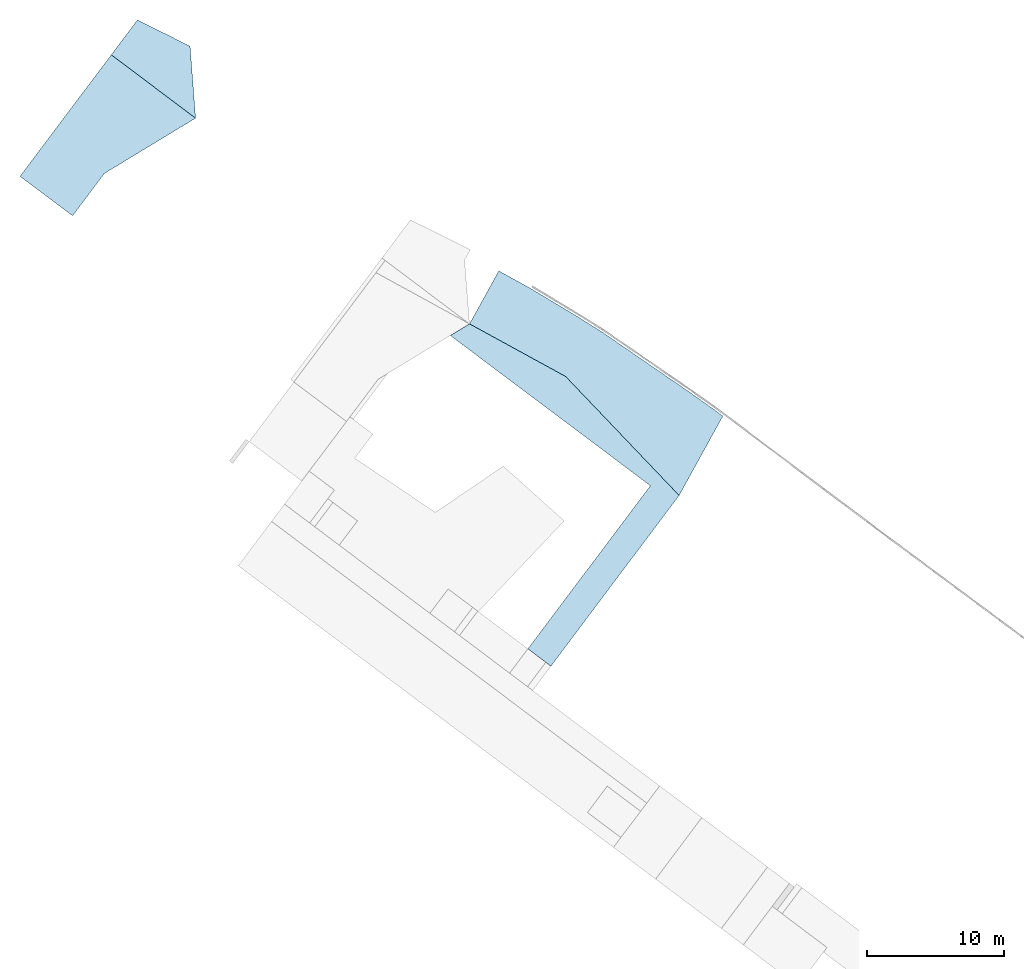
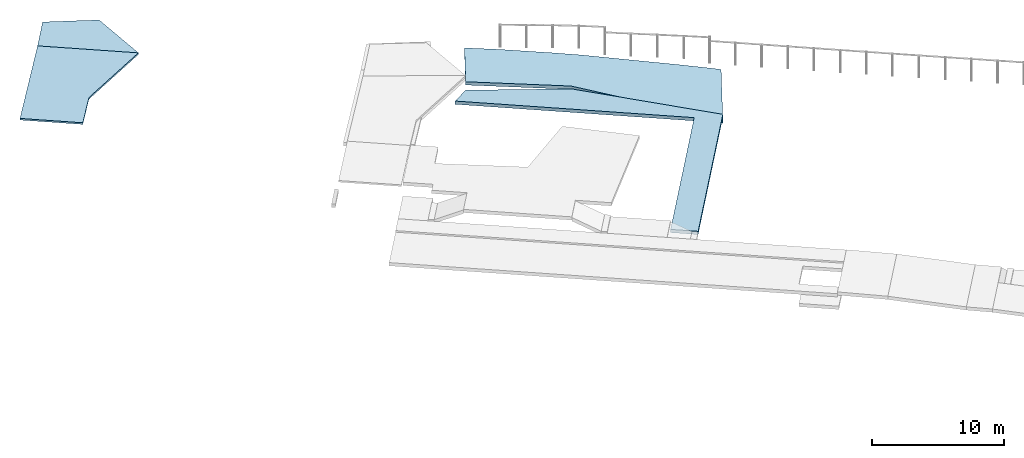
# One storey, part 12 of 12: 4 slabs.
"""IFC2X3 building model written with IfcOpenShell, lengths in metres."""

import ifcopenshell
import ifcopenshell.guid

model = None  # the IFC model being written
_history = None  # IfcOwnerHistory: only IFC2X3 demands one
_inside = {}  # id of a spatial element -> (the spatial element, [elements in it])
_under = {}  # id of a project, library or spatial element -> (it, [spatial elements below it])
_declared = {}  # id of a project -> (the project, [libraries it declares])
_typed = {}  # id of a type object -> (the type object, [elements of that type])
_made_of = {}  # id of a material, layer set ... -> (it, [elements and type objects made of it])


def new_model(schema):
    """Start an empty IFC model of exactly this schema.

    Asked for "IFC4X3", IfcOpenShell would pick the latest addendum, in which some entities
    have other attributes; the version numbers below select the first issue.
    IFC2X3 requires an IfcOwnerHistory on every rooted entity: one is made here for all.
    """
    global model, _history
    if schema == "IFC4X3":
        model = ifcopenshell.file(schema_version=(4, 3, 0, 0))
    else:
        model = ifcopenshell.file(schema=schema)
    _inside.clear()
    _under.clear()
    _declared.clear()
    _typed.clear()
    _made_of.clear()
    _history = None
    if model.schema == "IFC2X3":
        org = make("IfcOrganization", Name="unknown")
        user = make(
            "IfcPersonAndOrganization",
            ThePerson=make("IfcPerson", FamilyName="unknown"),
            TheOrganization=org,
        )
        app = make(
            "IfcApplication",
            ApplicationDeveloper=org,
            Version="unknown",
            ApplicationFullName="unknown",
            ApplicationIdentifier="unknown",
        )
        _history = make(
            "IfcOwnerHistory",
            OwningUser=user,
            OwningApplication=app,
            ChangeAction="ADDED",
            CreationDate=0,
        )
    return model


def make(cls, **values):
    """One entity of the class cls with the attributes given. An attribute that is None is left unset."""
    return model.create_entity(
        cls, **{name: value for name, value in values.items() if value is not None}
    )


def entity(cls, *values):
    """Any entity or typed value of the class cls, its attributes in the order of the schema. None: left unset."""
    e = model.create_entity(cls)
    for i, value in enumerate(values):
        if value is not None:
            e[i] = value
    return e


def rooted(cls, **values):
    """An entity with a GlobalId (a new one), such as an element, a storey or a relation."""
    return make(cls, GlobalId=ifcopenshell.guid.new(), OwnerHistory=_history, **values)


def si_unit(unit_type, name, prefix=None):
    """IfcSIUnit, for example si_unit("LENGTHUNIT", "METRE", prefix="MILLI")."""
    return make("IfcSIUnit", UnitType=unit_type, Prefix=prefix, Name=name)


def converted_unit(unit_type, name, factor, base, dimensions=None, offset=None):
    """IfcConversionBasedUnit, such as the inch: factor (a typed value) times the base unit."""
    return make(
        "IfcConversionBasedUnit"
        if offset is None
        else "IfcConversionBasedUnitWithOffset",
        ConversionOffset=offset,
        Dimensions=None
        if dimensions is None
        else entity("IfcDimensionalExponents", *dimensions),
        UnitType=unit_type,
        Name=name,
        ConversionFactor=make(
            "IfcMeasureWithUnit", ValueComponent=factor, UnitComponent=base
        ),
    )


def derived_unit(unit_type, elements):
    """IfcDerivedUnit: a product of units, each with its exponent."""
    return make(
        "IfcDerivedUnit",
        Elements=[
            make("IfcDerivedUnitElement", Unit=unit, Exponent=power)
            for unit, power in elements
        ],
        UnitType=unit_type,
    )


def assignment(units):
    """IfcUnitAssignment: the units of a project."""
    return None if units is None else make("IfcUnitAssignment", Units=units)


def point(xyz):
    """IfcCartesianPoint."""
    return None if xyz is None else make("IfcCartesianPoint", Coordinates=xyz)


def direction(xyz):
    """IfcDirection."""
    return None if xyz is None else make("IfcDirection", DirectionRatios=xyz)


def frame(location, z_axis=None, x_axis=None):
    """IfcAxis2Placement3D, a coordinate frame: its origin and axes. An axis left out is left unset."""
    return make(
        "IfcAxis2Placement3D",
        Location=point(location),
        Axis=direction(z_axis),
        RefDirection=direction(x_axis),
    )


def origin():
    """The frame at (0, 0, 0) with its axes left unset."""
    return frame((0.0, 0.0, 0.0))


def place(relative_to, where):
    """IfcLocalPlacement: puts the frame where relative to a parent placement (None: the world)."""
    return make(
        "IfcLocalPlacement", PlacementRelTo=relative_to, RelativePlacement=where
    )


def context(
    kind, dimensions, precision=None, world=None, true_north=None, identifier=None
):
    """IfcGeometricRepresentationContext, for example the 3D "Model" context."""
    return make(
        "IfcGeometricRepresentationContext",
        ContextIdentifier=identifier,
        ContextType=kind,
        CoordinateSpaceDimension=dimensions,
        Precision=precision,
        WorldCoordinateSystem=world,
        TrueNorth=true_north,
    )


def subcontext(parent, identifier, kind, view, scale=None):
    """IfcGeometricRepresentationSubContext, for example "Body" below "Model"."""
    return make(
        "IfcGeometricRepresentationSubContext",
        ContextIdentifier=identifier,
        ContextType=kind,
        ParentContext=parent,
        TargetScale=scale,
        TargetView=view,
    )


def project(units=None, contexts=None):
    """IfcProject with its units and contexts."""
    return rooted(
        "IfcProject",
        Name="project",
        RepresentationContexts=contexts,
        UnitsInContext=assignment(units),
    )


def spatial(cls, under=None, at=None, **own):
    """A site, building, storey or space (cls), placed at a placement, below another one or the project."""
    s = rooted(cls, ObjectPlacement=at, **own)
    if under is not None:
        _under.setdefault(under.id(), (under, []))[1].append(s)
    return s


def polyline(points):
    """IfcPolyline through the points."""
    return make("IfcPolyline", Points=[point(p) for p in points])


def outline(outer, holes=None, kind="AREA"):
    """IfcArbitraryClosedProfileDef: a profile drawn as a closed curve; with holes, ...WithVoids."""
    if holes is None:
        return make("IfcArbitraryClosedProfileDef", ProfileType=kind, OuterCurve=outer)
    return make(
        "IfcArbitraryProfileDefWithVoids",
        ProfileType=kind,
        OuterCurve=outer,
        InnerCurves=holes,
    )


def extrude(swept, where, along, depth):
    """IfcExtrudedAreaSolid: the profile swept, set in the frame where, extruded along a direction by depth."""
    return make(
        "IfcExtrudedAreaSolid",
        SweptArea=swept,
        Position=where,
        ExtrudedDirection=direction(along),
        Depth=depth,
    )


def clip(a, b, op="DIFFERENCE"):
    """IfcBooleanClippingResult: the solid a cut by the half space b."""
    return make(
        "IfcBooleanClippingResult", Operator=op, FirstOperand=a, SecondOperand=b
    )


def halfspace(plane, agree):
    """IfcHalfSpaceSolid: all space on one side of the plane z = 0 of the frame plane."""
    return make(
        "IfcHalfSpaceSolid",
        BaseSurface=make("IfcPlane", Position=plane),
        AgreementFlag=agree,
    )


def shape(context_of_items, identifier, shape_type, items):
    """IfcShapeRepresentation: the items that make up one representation, for example the "Body"."""
    return make(
        "IfcShapeRepresentation",
        ContextOfItems=context_of_items,
        RepresentationIdentifier=identifier,
        RepresentationType=shape_type,
        Items=items,
    )


def material(Name=None, Category=None):
    """IfcMaterial."""
    return make("IfcMaterial", Name=Name, Category=Category)


def layer(
    of_material, thickness, ventilated=None, Name=None, Category=None, Priority=None
):
    """IfcMaterialLayer: one layer of a wall or slab, of a material (None: an air gap)."""
    return make(
        "IfcMaterialLayer",
        Material=of_material,
        LayerThickness=thickness,
        IsVentilated=ventilated,
        Name=Name,
        Category=Category,
        Priority=Priority,
    )


def layer_set(layers, Name=None):
    """IfcMaterialLayerSet."""
    return make("IfcMaterialLayerSet", MaterialLayers=layers, LayerSetName=Name)


def layer_usage(for_layer_set, set_direction, sense, offset, extent=None):
    """IfcMaterialLayerSetUsage: how a layer set lies in its element."""
    return make(
        "IfcMaterialLayerSetUsage",
        ForLayerSet=for_layer_set,
        LayerSetDirection=set_direction,
        DirectionSense=sense,
        OffsetFromReferenceLine=offset,
        ReferenceExtent=extent,
    )


def made_of(thing, what):
    """Note that an element or type object is made of a material, layer set ...; save() writes the relation."""
    if what is not None:
        _made_of.setdefault(what.id(), (what, []))[1].append(thing)
    return thing


def type_object(cls, material=None, **own):
    """A type object (cls), such as IfcWallType, which elements share."""
    return made_of(rooted(cls, **own), material)


def element(
    cls,
    number,
    at=None,
    inside=None,
    cuts=None,
    type_object=None,
    material=None,
    context=None,
    identifier="Body",
    shape_type=None,
    held_by="IfcProductDefinitionShape",
    body=None,
    shapes=None,
    **own,
):
    """One element of the class cls, such as IfcWall. Its Tag is "e" and its number.

    at: its placement. inside: the storey or other place that contains it. cuts: it is an
    opening in that element (IfcRelVoidsElement). A single representation is given by context,
    identifier, shape_type and body (its items); several are given by shapes. held_by: the class
    of the entity that holds the representations. save() writes the other relations.
    """
    e = rooted(cls, Tag="e%d" % number, ObjectPlacement=at, **own)
    if body is not None:
        shapes = [shape(context, identifier, shape_type, body)]
    if shapes is not None:
        e.Representation = make(held_by, Representations=shapes)
    if inside is not None:
        _inside.setdefault(inside.id(), (inside, []))[1].append(e)
    if cuts is not None:
        rooted(
            "IfcRelVoidsElement", RelatingBuildingElement=cuts, RelatedOpeningElement=e
        )
    if type_object is not None:
        _typed.setdefault(type_object.id(), (type_object, []))[1].append(e)
    return made_of(e, material)


def aggregate(whole, parts):
    """IfcRelAggregates: a whole, such as a stair, and the parts it consists of."""
    return rooted("IfcRelAggregates", RelatingObject=whole, RelatedObjects=parts)


def save(model, path):
    """Write the relations noted so far, then the file.

    IfcRelAggregates (storeys below a building ...), IfcRelContainedInSpatialStructure (elements
    in a storey), IfcRelDefinesByType, IfcRelAssociatesMaterial and IfcRelDeclares: one each for
    every whole, place, type object, material and project.
    """
    for whole, parts in _under.values():
        aggregate(whole, parts)
    for where, things in _inside.values():
        rooted(
            "IfcRelContainedInSpatialStructure",
            RelatedElements=things,
            RelatingStructure=where,
        )
    for kind, things in _typed.values():
        rooted("IfcRelDefinesByType", RelatedObjects=things, RelatingType=kind)
    for what, things in _made_of.values():
        rooted("IfcRelAssociatesMaterial", RelatedObjects=things, RelatingMaterial=what)
    for by, libraries in _declared.values():
        rooted("IfcRelDeclares", RelatingContext=by, RelatedDefinitions=libraries)
    model.write(path)


model = new_model("IFC2X3")

# Units and contexts
model_context = context("Model", 3, precision=1e-05, world=origin(), true_north=direction((6.123031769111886e-17, 1.0)))
body_context = subcontext(model_context, "Body", "Model", "MODEL_VIEW")
ifc_project = project(units=[si_unit("LENGTHUNIT", "METRE"), si_unit("AREAUNIT", "SQUARE_METRE"), si_unit("VOLUMEUNIT", "CUBIC_METRE"), converted_unit("PLANEANGLEUNIT", "DEGREE", entity("IfcRatioMeasure", 0.017453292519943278), si_unit("PLANEANGLEUNIT", "RADIAN"), dimensions=[0, 0, 0, 0, 0, 0, 0]), si_unit("MASSUNIT", "GRAM", prefix="KILO"), derived_unit("MASSDENSITYUNIT", [(si_unit("MASSUNIT", "GRAM", prefix="KILO"), 1), (si_unit("LENGTHUNIT", "METRE"), -3)]), derived_unit("IONCONCENTRATIONUNIT", [(si_unit("MASSUNIT", "GRAM", prefix="KILO"), 1), (si_unit("LENGTHUNIT", "METRE"), -3)]), derived_unit("MOMENTOFINERTIAUNIT", [(si_unit("LENGTHUNIT", "METRE"), 4)]), si_unit("TIMEUNIT", "SECOND"), si_unit("FREQUENCYUNIT", "HERTZ"), si_unit("THERMODYNAMICTEMPERATUREUNIT", "DEGREE_CELSIUS"), derived_unit("THERMALTRANSMITTANCEUNIT", [(si_unit("MASSUNIT", "GRAM", prefix="KILO"), 1), (si_unit("THERMODYNAMICTEMPERATUREUNIT", "KELVIN"), -1), (si_unit("TIMEUNIT", "SECOND"), -3)]), derived_unit("THERMALCONDUCTANCEUNIT", [(si_unit("MASSUNIT", "GRAM", prefix="KILO"), 1), (si_unit("THERMODYNAMICTEMPERATUREUNIT", "KELVIN"), -1), (si_unit("TIMEUNIT", "SECOND"), -3), (si_unit("LENGTHUNIT", "METRE"), 1)]), derived_unit("VOLUMETRICFLOWRATEUNIT", [(si_unit("LENGTHUNIT", "METRE"), 3), (si_unit("TIMEUNIT", "SECOND"), -1)]), derived_unit("MASSFLOWRATEUNIT", [(si_unit("MASSUNIT", "GRAM", prefix="KILO"), 1), (si_unit("TIMEUNIT", "SECOND"), -1)]), derived_unit("ROTATIONALFREQUENCYUNIT", [(si_unit("TIMEUNIT", "SECOND"), -1)]), si_unit("ELECTRICCURRENTUNIT", "AMPERE"), si_unit("ELECTRICVOLTAGEUNIT", "VOLT"), si_unit("POWERUNIT", "WATT"), si_unit("FORCEUNIT", "NEWTON", prefix="KILO"), si_unit("ILLUMINANCEUNIT", "LUX"), si_unit("LUMINOUSFLUXUNIT", "LUMEN"), si_unit("LUMINOUSINTENSITYUNIT", "CANDELA"), derived_unit("USERDEFINED", [(si_unit("MASSUNIT", "GRAM", prefix="KILO"), -1), (si_unit("LENGTHUNIT", "METRE"), -2), (si_unit("TIMEUNIT", "SECOND"), 3), (si_unit("LUMINOUSFLUXUNIT", "LUMEN"), 1)]), derived_unit("USERDEFINED", [(si_unit("MASSUNIT", "GRAM", prefix="KILO"), 1), (si_unit("TIMEUNIT", "SECOND"), -3), (si_unit("LENGTHUNIT", "METRE"), 3), (si_unit("ELECTRICCURRENTUNIT", "AMPERE"), -2)]), derived_unit("SOUNDPOWERUNIT", [(si_unit("MASSUNIT", "GRAM", prefix="KILO"), 1), (si_unit("TIMEUNIT", "SECOND"), -3), (si_unit("LENGTHUNIT", "METRE"), 2)]), derived_unit("SOUNDPRESSUREUNIT", [(si_unit("MASSUNIT", "GRAM", prefix="KILO"), 1), (si_unit("LENGTHUNIT", "METRE"), -1), (si_unit("TIMEUNIT", "SECOND"), -2)]), derived_unit("LINEARVELOCITYUNIT", [(si_unit("LENGTHUNIT", "METRE"), 1), (si_unit("TIMEUNIT", "SECOND"), -1)]), si_unit("PRESSUREUNIT", "PASCAL"), derived_unit("USERDEFINED", [(si_unit("MASSUNIT", "GRAM", prefix="KILO"), 1), (si_unit("LENGTHUNIT", "METRE"), -2), (si_unit("TIMEUNIT", "SECOND"), -2)]), derived_unit("LINEARFORCEUNIT", [(si_unit("MASSUNIT", "GRAM", prefix="KILO"), 1), (si_unit("TIMEUNIT", "SECOND"), -2)]), derived_unit("PLANARFORCEUNIT", [(si_unit("MASSUNIT", "GRAM", prefix="KILO"), 1), (si_unit("LENGTHUNIT", "METRE"), -1), (si_unit("TIMEUNIT", "SECOND"), -2)]), derived_unit("SPECIFICHEATCAPACITYUNIT", [(si_unit("THERMODYNAMICTEMPERATUREUNIT", "KELVIN"), -1), (si_unit("LENGTHUNIT", "METRE"), 2), (si_unit("TIMEUNIT", "SECOND"), -2)]), derived_unit("HEATINGVALUEUNIT", [(si_unit("LENGTHUNIT", "METRE"), 2), (si_unit("TIMEUNIT", "SECOND"), -2)]), derived_unit("VAPORPERMEABILITYUNIT", [(si_unit("LENGTHUNIT", "METRE"), -1), (si_unit("TIMEUNIT", "SECOND"), 1)]), derived_unit("DYNAMICVISCOSITYUNIT", [(si_unit("MASSUNIT", "GRAM", prefix="KILO"), 1), (si_unit("TIMEUNIT", "SECOND"), -1), (si_unit("LENGTHUNIT", "METRE"), -1)]), derived_unit("THERMALEXPANSIONCOEFFICIENTUNIT", [(si_unit("THERMODYNAMICTEMPERATUREUNIT", "KELVIN"), -1)]), derived_unit("MODULUSOFELASTICITYUNIT", [(si_unit("MASSUNIT", "GRAM", prefix="KILO"), 1), (si_unit("LENGTHUNIT", "METRE"), -1), (si_unit("TIMEUNIT", "SECOND"), -2)]), derived_unit("ISOTHERMALMOISTURECAPACITYUNIT", [(si_unit("LENGTHUNIT", "METRE"), 3), (si_unit("MASSUNIT", "GRAM", prefix="KILO"), -1)]), derived_unit("MOISTUREDIFFUSIVITYUNIT", [(si_unit("TIMEUNIT", "SECOND"), -1), (si_unit("LENGTHUNIT", "METRE"), 2)])], contexts=[model_context])

# Site, building, storey
site_placement = place(None, origin())
site = spatial("IfcSite", under=ifc_project, at=site_placement, Name="Superficie", CompositionType="ELEMENT")
building_placement = place(site_placement, frame((0.0, 0.0, 235.0), z_axis=(0.0, 0.0, 1.0), x_axis=(-0.7996477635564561, 0.6004693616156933, 0.0)))
building = spatial("IfcBuilding", under=site, at=building_placement, CompositionType="ELEMENT")
storey_placement = place(building_placement, frame((0.0, 0.0, -4.459999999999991)))
storey = spatial("IfcBuildingStorey", under=building, at=storey_placement, Name="PS1- Vestuari", CompositionType="ELEMENT", Elevation=-4.459999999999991)

# Slabs
ifc_material_1 = material(Name="_Topografia- Plataformes")
ifc_layer_1 = layer(ifc_material_1, 0.29999999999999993)
ifc_layer_set_1 = layer_set([ifc_layer_1], Name="Plataforma:300 mm")
ifc_layer_usage_1 = layer_usage(ifc_layer_set_1, "AXIS3", "POSITIVE", 0.0)
slab_type_1 = type_object("IfcSlabType", Name="Plataforma:300 mm", PredefinedType="FLOOR", material=ifc_layer_set_1)
slab_1_placement = place(storey_placement, frame((52.0874838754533, -66.38449841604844, -1.7776462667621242)))
element("IfcSlab", 1, at=slab_1_placement, inside=storey, type_object=slab_type_1, material=ifc_layer_usage_1, Name="Plataforma:300 mm", ObjectType="Plataforma:300 mm", PredefinedType="FLOOR", context=body_context, shape_type="SweptSolid", body=[
    extrude(outline(polyline([(-20.10690338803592, -3.0155945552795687), (-8.246707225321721, -1.0447654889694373), (-0.30934712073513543, -2.187017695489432), (0.30934712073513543, 2.187017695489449), (-2.3581860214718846, 2.562679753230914), (-4.337539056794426, 2.7667275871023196), (-6.329648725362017, 2.9720904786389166), (-8.527991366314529, 3.1562984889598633), (-10.277552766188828, 3.2245634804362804), (-15.85959062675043, 3.4606948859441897), (-18.262188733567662, 3.5281075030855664), (-19.181316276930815, 3.5281075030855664), (-20.10690338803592, -3.0155945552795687)])), frame((20.062823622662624, 3.5281075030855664, 1.5776462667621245), z_axis=(0.06617956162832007, 0.0, -0.9978077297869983), x_axis=(0.9978077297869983, 0.0, 0.06617956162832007)), (-0.06617956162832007, 0.0, 0.9978077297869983), 0.30065912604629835),
])
slab_2_placement = place(storey_placement, origin())
element("IfcSlab", 2, at=slab_2_placement, inside=storey, type_object=slab_type_1, material=ifc_layer_usage_1, Name="Plataforma:300 mm", ObjectType="Plataforma:300 mm", PredefinedType="FLOOR", context=body_context, shape_type="SweptSolid", body=[
    extrude(outline(polyline([(-3.556303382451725, 5.916489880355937), (11.33072268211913, 5.916489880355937), (11.330722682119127, 8.024153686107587), (-4.249810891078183, 8.02415368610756), (-6.220639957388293, -3.810041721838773), (-5.078387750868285, -11.730000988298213), (-3.556303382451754, -12.341244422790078), (-3.556303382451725, 5.916489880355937)])), frame((60.11163756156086, -55.59098546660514, -1.3), z_axis=(0.0, 0.0, 1.0), x_axis=(0.0, 1.0, 0.0)), (0.0, 0.0, 1.0), 0.30000000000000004),
])
ifc_material_2 = material(Name="_Saulo T1- PAV")
ifc_layer_2 = layer(ifc_material_2, 0.14999999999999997)
ifc_layer_set_2 = layer_set([ifc_layer_2], Name="Suelo:PAV- Saulo- 15 cm- T1")
ifc_layer_usage_2 = layer_usage(ifc_layer_set_2, "AXIS3", "POSITIVE", 0.0)
slab_type_2 = type_object("IfcSlabType", Name="Suelo:PAV- Saulo- 15 cm- T1", PredefinedType="FLOOR", material=ifc_layer_set_2)
slab_3_placement = place(storey_placement, origin())
element("IfcSlab", 3, at=slab_3_placement, inside=storey, type_object=slab_type_2, material=ifc_layer_usage_2, Name="Suelo:PAV- Saulo- 15 cm- T1", ObjectType="Suelo:PAV- Saulo- 15 cm- T1", PredefinedType="FLOOR", context=body_context, shape_type="SweptSolid", body=[
    extrude(outline(polyline([(-2.1538882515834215, -2.8702042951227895), (1.0242806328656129, -2.8702042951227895), (1.4797354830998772, -0.4491972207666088), (1.8037603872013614, 1.3565266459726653), (-2.1538882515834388, 4.83307916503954), (-2.1538882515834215, -2.8702042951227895)])), frame((101.67471771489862, -62.82326146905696, 0.35000000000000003), z_axis=(0.0, 0.0, -1.0), x_axis=(0.0, -1.0, 0.0)), (0.0, 0.0, 1.0), 0.15000000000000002),
])
slab_4_placement = place(storey_placement, origin())
element("IfcSlab", 4, at=slab_4_placement, inside=storey, type_object=slab_type_2, material=ifc_layer_usage_2, Name="Suelo:PAV- Saulo- 15 cm- T1", ObjectType="Suelo:PAV- Saulo- 15 cm- T1", PredefinedType="FLOOR", context=body_context, shape_type="SweptSolid", body=[
    clip(clip(extrude(outline(polyline([(-3.4605664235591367, -5.905083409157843), (4.24271703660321, -5.905083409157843), (1.3392079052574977, 1.353888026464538), (1.3392079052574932, 5.228139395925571), (-3.4605664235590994, 5.228139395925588), (-3.4605664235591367, -5.905083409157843)])), frame((101.08435558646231, -54.787730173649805, 0.8756283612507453), z_axis=(0.0, 0.08901285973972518, -0.9960304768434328), x_axis=(-1.0, 0.0, 0.0)), (0.0, -0.08901285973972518, 0.9960304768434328), 0.15119798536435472), halfspace(frame((101.24493788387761, -60.66937321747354, 0.1994021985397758), z_axis=(0.0, 0.08901285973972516, -0.9960304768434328), x_axis=(0.0, 0.9960304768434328, 0.08901285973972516)), False)), halfspace(frame((101.24493788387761, -60.66937321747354, 0.35000000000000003), z_axis=(0.0, -0.08901285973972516, 0.9960304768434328), x_axis=(0.0, -0.9960304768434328, -0.08901285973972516)), False)),
])

save(model, "model.ifc")
